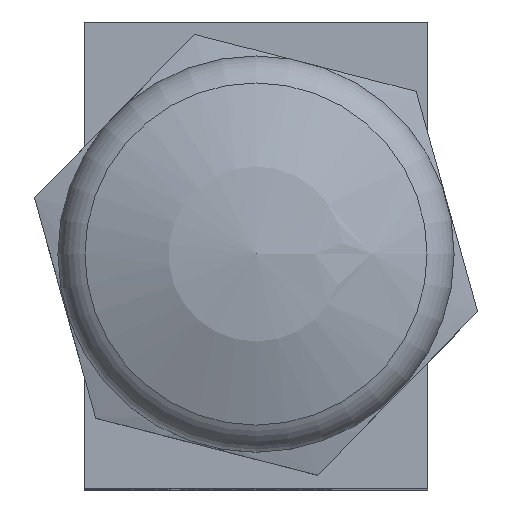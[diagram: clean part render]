
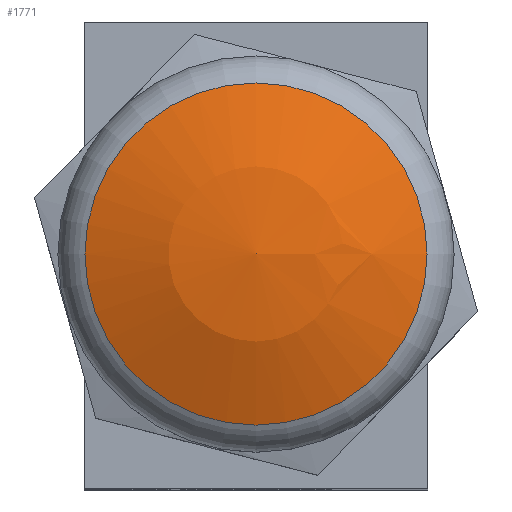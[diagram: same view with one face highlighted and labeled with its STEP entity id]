
A CAD part, top view. The second image highlights one B-rep face of the part: STEP entity #1771.
In plain terms, the highlighted spherical face has radius 35 mm.
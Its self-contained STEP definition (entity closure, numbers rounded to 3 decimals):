
#1748=CARTESIAN_POINT('',(0.0,-14.677,89.774));
#1749=VERTEX_POINT('',#1748);
#1750=CARTESIAN_POINT('',(0.0,0.0,89.774));
#1751=DIRECTION('',(0.0,0.0,1.0));
#1752=DIRECTION('',(0.0,-1.0,0.0));
#1753=AXIS2_PLACEMENT_3D('',#1750,#1751,#1752);
#1754=CIRCLE('',#1753,14.677);
#1755=EDGE_CURVE('',#1749,#1749,#1754,.T.);
#1763=CARTESIAN_POINT('',(0.0,0.,58.));
#1764=DIRECTION('',(0.0,0.0,1.0));
#1765=DIRECTION('',(1.0,0.0,0.0));
#1766=AXIS2_PLACEMENT_3D('',#1763,#1764,#1765);
#1767=SPHERICAL_SURFACE('',#1766,35.0);
#1768=ORIENTED_EDGE('',*,*,#1755,.T.);
#1769=EDGE_LOOP('',(#1768));
#1770=FACE_OUTER_BOUND('',#1769,.T.);
#1771=ADVANCED_FACE('',(#1770),#1767,.T.);
